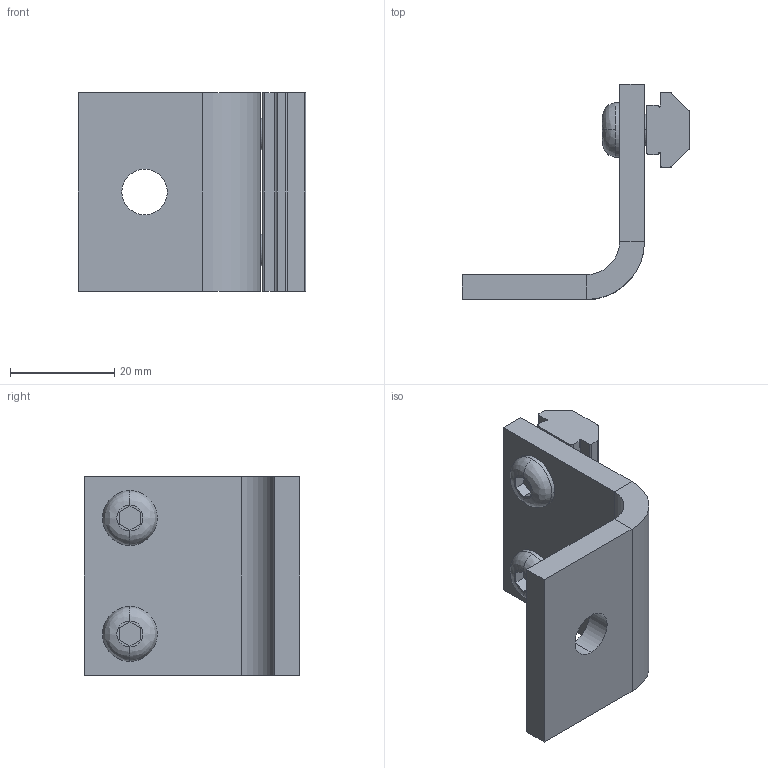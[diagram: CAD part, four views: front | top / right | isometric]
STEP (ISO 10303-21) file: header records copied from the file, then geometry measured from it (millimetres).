
FILE_DESCRIPTION((''),'2;1');
FILE_NAME('200349M_ASM','2016-05-25T',('adam.dellomodarme'),(''),'PRO/ENGINEER BY PARAMETRIC TECHNOLOGY CORPORATION, 2012420','PRO/ENGINEER BY PARAMETRIC TECHNOLOGY CORPORATION, 2012420','');
FILE_SCHEMA(('CONFIG_CONTROL_DESIGN'));
Length unit declared in the file: inch
Products named in the file (2): 200349M; 200349M_ASM
Assembly tree (1 placements, depth 2):
  200349M_ASM
    200349M
Bounding box: 43.59 x 41.27 x 38.1 mm (x, y, z)
Volume: 15816.9 mm3; surface area: 8496.1 mm2
Topology: 1 solids, 1 shells, 84 faces, 204 edges, 132 vertices
Faces by surface type: plane 46, cylinder 30, bspline 4, cone 4
Entity records: 2639 total; most frequent: CARTESIAN_POINT 531, DIRECTION 446, ORIENTED_EDGE 408, EDGE_CURVE 204, AXIS2_PLACEMENT_3D 159, VERTEX_POINT 132, VECTOR 128, LINE 128
